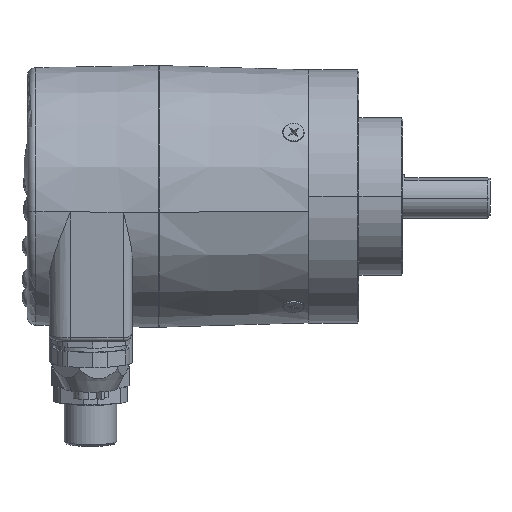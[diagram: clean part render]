
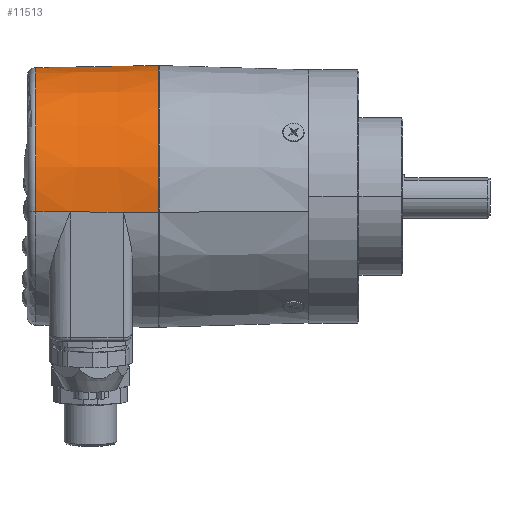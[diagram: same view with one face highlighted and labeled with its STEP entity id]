
A CAD part, top view. The second image highlights one B-rep face of the part: STEP entity #11513.
In plain terms, the highlighted conical face has half-angle 1 degrees and reference radius 30 mm.
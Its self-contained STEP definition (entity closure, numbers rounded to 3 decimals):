
#10827 = ORIENTED_EDGE ( 'NONE', *, *, #10828, .F. ) ;
#10828 = EDGE_CURVE ( 'NONE', #10829, #11677, #19123, .T. ) ;
#10829 = VERTEX_POINT ( 'NONE', #19119 ) ;
#10830 = ORIENTED_EDGE ( 'NONE', *, *, #10831, .F. ) ;
#10831 = EDGE_CURVE ( 'NONE', #11557, #10829, #19117, .T. ) ;
#11513 = ADVANCED_FACE ( 'NONE', ( #20050 ), #20089, .T. ) ;
#11545 = EDGE_CURVE ( 'NONE', #11617, #11547, #20193, .T. ) ;
#11547 = VERTEX_POINT ( 'NONE', #20244 ) ;
#11548 = ORIENTED_EDGE ( 'NONE', *, *, #11883, .T. ) ;
#11555 = EDGE_CURVE ( 'NONE', #11557, #11558, #20234, .T. ) ;
#11557 = VERTEX_POINT ( 'NONE', #20229 ) ;
#11558 = VERTEX_POINT ( 'NONE', #20228 ) ;
#11559 = ORIENTED_EDGE ( 'NONE', *, *, #11615, .T. ) ;
#11615 = EDGE_CURVE ( 'NONE', #11558, #11617, #20339, .T. ) ;
#11617 = VERTEX_POINT ( 'NONE', #20334 ) ;
#11620 = ORIENTED_EDGE ( 'NONE', *, *, #11545, .T. ) ;
#11673 = ORIENTED_EDGE ( 'NONE', *, *, #11675, .F. ) ;
#11675 = EDGE_CURVE ( 'NONE', #11677, #11827, #20422, .T. ) ;
#11677 = VERTEX_POINT ( 'NONE', #20418 ) ;
#11819 = ORIENTED_EDGE ( 'NONE', *, *, #11824, .F. ) ;
#11824 = EDGE_CURVE ( 'NONE', #11827, #11886, #20653, .T. ) ;
#11827 = VERTEX_POINT ( 'NONE', #20707 ) ;
#11861 = EDGE_LOOP ( 'NONE', ( #11863, #11559, #11620, #11548, #11819, #11673, #10827, #10830 ) ) ;
#11863 = ORIENTED_EDGE ( 'NONE', *, *, #11555, .T. ) ;
#11883 = EDGE_CURVE ( 'NONE', #11547, #11886, #20751, .T. ) ;
#11886 = VERTEX_POINT ( 'NONE', #20747 ) ;
#19114 = DIRECTION ( 'NONE',  ( 1., 0.002, -0.017 ) ) ;
#19115 = VECTOR ( 'NONE', #19114, 1000. ) ;
#19116 = CARTESIAN_POINT ( 'NONE',  ( -33.47, 3.847, -29.776 ) ) ;
#19117 = LINE ( 'NONE', #19116, #19115 ) ;
#19119 = CARTESIAN_POINT ( 'NONE',  ( -53.557, 3.804, -29.428 ) ) ;
#19120 = DIRECTION ( 'NONE',  ( 1., 0.002, -0.017 ) ) ;
#19121 = VECTOR ( 'NONE', #19120, 1000. ) ;
#19122 = CARTESIAN_POINT ( 'NONE',  ( -33.993, 3.846, -29.767 ) ) ;
#19123 = LINE ( 'NONE', #19122, #19121 ) ;
#20050 = FACE_OUTER_BOUND ( 'NONE', #11861, .T. ) ;
#20086 = DIRECTION ( 'NONE',  ( 0., 0.122, -0.993 ) ) ;
#20087 = DIRECTION ( 'NONE',  ( 1., 0., 0. ) ) ;
#20088 = AXIS2_PLACEMENT_3D ( 'NONE', #20091, #20087, #20086 ) ;
#20089 = CONICAL_SURFACE ( 'NONE', #20088, 30., 0.017 ) ;
#20091 = CARTESIAN_POINT ( 'NONE',  ( -33.47, 0.191, 0. ) ) ;
#20192 = CARTESIAN_POINT ( 'NONE',  ( -33.993, -3.464, 29.767 ) ) ;
#20193 = LINE ( 'NONE', #20192, #20246 ) ;
#20228 = CARTESIAN_POINT ( 'NONE',  ( -61.505, -3.406, 29.291 ) ) ;
#20229 = CARTESIAN_POINT ( 'NONE',  ( -61.505, 3.787, -29.291 ) ) ;
#20230 = DIRECTION ( 'NONE',  ( 0., -0.122, 0.993 ) ) ;
#20231 = DIRECTION ( 'NONE',  ( 1., 0., 0. ) ) ;
#20232 = CARTESIAN_POINT ( 'NONE',  ( -61.505, 0.191, 0. ) ) ;
#20233 = AXIS2_PLACEMENT_3D ( 'NONE', #20232, #20231, #20230 ) ;
#20234 = CIRCLE ( 'NONE', #20233, 29.511 ) ;
#20244 = CARTESIAN_POINT ( 'NONE',  ( -41.505, -3.448, 29.637 ) ) ;
#20245 = DIRECTION ( 'NONE',  ( 1., -0.002, 0.017 ) ) ;
#20246 = VECTOR ( 'NONE', #20245, 1000. ) ;
#20334 = CARTESIAN_POINT ( 'NONE',  ( -53.557, -3.423, 29.428 ) ) ;
#20336 = DIRECTION ( 'NONE',  ( 1., -0.002, 0.017 ) ) ;
#20337 = VECTOR ( 'NONE', #20336, 1000. ) ;
#20338 = CARTESIAN_POINT ( 'NONE',  ( -33.47, -3.465, 29.776 ) ) ;
#20339 = LINE ( 'NONE', #20338, #20337 ) ;
#20418 = CARTESIAN_POINT ( 'NONE',  ( -41.505, 3.83, -29.637 ) ) ;
#20419 = DIRECTION ( 'NONE',  ( 1., 0.002, -0.017 ) ) ;
#20420 = VECTOR ( 'NONE', #20419, 1000. ) ;
#20421 = CARTESIAN_POINT ( 'NONE',  ( -33.47, 3.847, -29.776 ) ) ;
#20422 = LINE ( 'NONE', #20421, #20420 ) ;
#20653 = CIRCLE ( 'NONE', #20711, 30. ) ;
#20707 = CARTESIAN_POINT ( 'NONE',  ( -33.47, 3.847, -29.776 ) ) ;
#20708 = DIRECTION ( 'NONE',  ( 0., 0.122, -0.993 ) ) ;
#20709 = DIRECTION ( 'NONE',  ( 1., 0., 0. ) ) ;
#20710 = CARTESIAN_POINT ( 'NONE',  ( -33.47, 0.191, 0. ) ) ;
#20711 = AXIS2_PLACEMENT_3D ( 'NONE', #20710, #20709, #20708 ) ;
#20747 = CARTESIAN_POINT ( 'NONE',  ( -33.47, -3.465, 29.776 ) ) ;
#20748 = DIRECTION ( 'NONE',  ( 1., -0.002, 0.017 ) ) ;
#20749 = VECTOR ( 'NONE', #20748, 1000. ) ;
#20750 = CARTESIAN_POINT ( 'NONE',  ( -33.47, -3.465, 29.776 ) ) ;
#20751 = LINE ( 'NONE', #20750, #20749 ) ;
